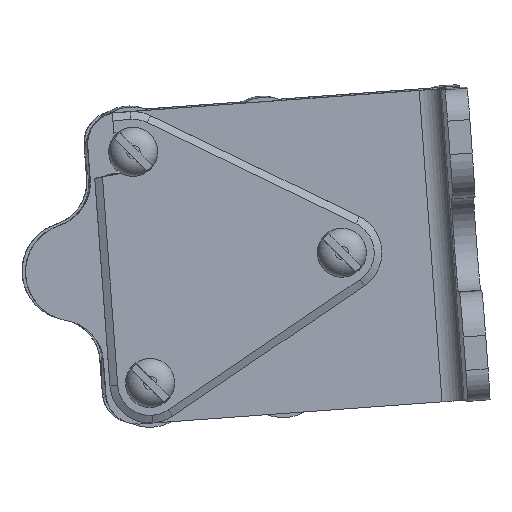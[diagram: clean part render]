
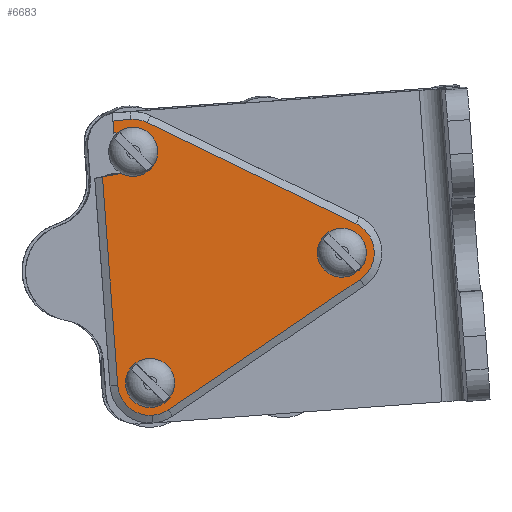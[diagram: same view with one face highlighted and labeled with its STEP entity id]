
A CAD part, left-side view. The second image highlights one B-rep face of the part: STEP entity #6683.
In plain terms, the highlighted planar face has unit normal (-1, -0.013, -0.004) as drawn and (0, 0, 1) by its records, which use the part's own axes.
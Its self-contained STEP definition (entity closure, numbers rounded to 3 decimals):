
#159 = CARTESIAN_POINT ( 'NONE',  ( 10.46, 11.134, 0.8 ) ) ;
#160 = ORIENTED_EDGE ( 'NONE', *, *, #23180, .T. ) ;
#226 = ORIENTED_EDGE ( 'NONE', *, *, #12877, .T. ) ;
#261 = CIRCLE ( 'NONE', #17431, 3.634 ) ;
#617 = CARTESIAN_POINT ( 'NONE',  ( -12.99, 11.134, 0.8 ) ) ;
#695 = LINE ( 'NONE', #20120, #22256 ) ;
#911 = PLANE ( 'NONE',  #2326 ) ;
#984 = CARTESIAN_POINT ( 'NONE',  ( 12.99, 7.5, 0.8 ) ) ;
#1068 = EDGE_CURVE ( 'NONE', #20906, #4068, #8412, .T. ) ;
#1075 = VERTEX_POINT ( 'NONE', #15772 ) ;
#1146 = DIRECTION ( 'NONE',  ( 1., 0., 0. ) ) ;
#1159 = VERTEX_POINT ( 'NONE', #14365 ) ;
#1478 = CARTESIAN_POINT ( 'NONE',  ( -12.99, 7.5, 0.8 ) ) ;
#1632 = DIRECTION ( 'NONE',  ( 0., 0., 1. ) ) ;
#1698 = ORIENTED_EDGE ( 'NONE', *, *, #19546, .F. ) ;
#1946 = CARTESIAN_POINT ( 'NONE',  ( -3.147, -16.817, 0.8 ) ) ;
#2055 = ORIENTED_EDGE ( 'NONE', *, *, #17269, .T. ) ;
#2068 = EDGE_CURVE ( 'NONE', #12152, #5134, #7306, .T. ) ;
#2107 = CARTESIAN_POINT ( 'NONE',  ( 15.24, 7.5, 0.8 ) ) ;
#2141 = ORIENTED_EDGE ( 'NONE', *, *, #15362, .T. ) ;
#2326 = AXIS2_PLACEMENT_3D ( 'NONE', #984, #6446, #15743 ) ;
#2375 = AXIS2_PLACEMENT_3D ( 'NONE', #13897, #17389, #4906 ) ;
#2485 = EDGE_CURVE ( 'NONE', #7765, #1075, #16244, .T. ) ;
#2811 = LINE ( 'NONE', #14398, #21282 ) ;
#3159 = VERTEX_POINT ( 'NONE', #21007 ) ;
#3263 = DIRECTION ( 'NONE',  ( 1., 0., 0. ) ) ;
#3274 = LINE ( 'NONE', #15252, #13363 ) ;
#3404 = CARTESIAN_POINT ( 'NONE',  ( 10.74, 7.5, 0.8 ) ) ;
#3544 = FACE_BOUND ( 'NONE', #21108, .T. ) ;
#3578 = CARTESIAN_POINT ( 'NONE',  ( 15.24, 7.5, 0.8 ) ) ;
#4033 = VERTEX_POINT ( 'NONE', #18733 ) ;
#4068 = VERTEX_POINT ( 'NONE', #8295 ) ;
#4096 = EDGE_CURVE ( 'NONE', #1075, #3159, #261, .T. ) ;
#4143 = CARTESIAN_POINT ( 'NONE',  ( -16.137, 5.683, 0.8 ) ) ;
#4224 = CARTESIAN_POINT ( 'NONE',  ( -12.99, 7.5, 0.8 ) ) ;
#4264 = CARTESIAN_POINT ( 'NONE',  ( -2.25, -15., 0.8 ) ) ;
#4410 = CARTESIAN_POINT ( 'NONE',  ( 0., -15., 0.8 ) ) ;
#4906 = DIRECTION ( 'NONE',  ( 1., 0., 0. ) ) ;
#5134 = VERTEX_POINT ( 'NONE', #16781 ) ;
#5388 = VERTEX_POINT ( 'NONE', #3578 ) ;
#6042 = EDGE_CURVE ( 'NONE', #4033, #19659, #3274, .T. ) ;
#6078 = EDGE_CURVE ( 'NONE', #4068, #20906, #16739, .T. ) ;
#6099 = CARTESIAN_POINT ( 'NONE',  ( 16.137, 5.683, 0.8 ) ) ;
#6446 = DIRECTION ( 'NONE',  ( 0., 0., 1. ) ) ;
#6683 = ADVANCED_FACE ( 'NONE', ( #19523, #3544, #7777 ), #911, .T. ) ;
#6927 = DIRECTION ( 'NONE',  ( 1., 0., 0. ) ) ;
#7077 = CARTESIAN_POINT ( 'NONE',  ( -3.147, -16.817, 0.8 ) ) ;
#7306 = CIRCLE ( 'NONE', #11015, 3.634 ) ;
#7465 = CARTESIAN_POINT ( 'NONE',  ( -12.99, 7.5, 0.8 ) ) ;
#7699 = DIRECTION ( 'NONE',  ( 0., 0., 1. ) ) ;
#7765 = VERTEX_POINT ( 'NONE', #13150 ) ;
#7777 = FACE_BOUND ( 'NONE', #20248, .T. ) ;
#8223 = ORIENTED_EDGE ( 'NONE', *, *, #12355, .F. ) ;
#8295 = CARTESIAN_POINT ( 'NONE',  ( 2.25, -15., 0.8 ) ) ;
#8412 = CIRCLE ( 'NONE', #2375, 2.25 ) ;
#8449 = CARTESIAN_POINT ( 'NONE',  ( 16.624, 9.5, 0.8 ) ) ;
#8490 = VECTOR ( 'NONE', #20811, 1000. ) ;
#8581 = DIRECTION ( 'NONE',  ( 0., 1., 0. ) ) ;
#9497 = CIRCLE ( 'NONE', #23199, 2.25 ) ;
#9524 = EDGE_CURVE ( 'NONE', #22062, #1159, #18951, .T. ) ;
#9715 = DIRECTION ( 'NONE',  ( 1., 0., 0. ) ) ;
#9829 = CARTESIAN_POINT ( 'NONE',  ( 12.99, 7.5, 0.8 ) ) ;
#9881 = CARTESIAN_POINT ( 'NONE',  ( -12.99, 7.5, 0.8 ) ) ;
#9894 = DIRECTION ( 'NONE',  ( 0., 0., 1. ) ) ;
#10054 = EDGE_CURVE ( 'NONE', #1159, #22062, #9497, .T. ) ;
#10577 = ORIENTED_EDGE ( 'NONE', *, *, #6042, .F. ) ;
#11015 = AXIS2_PLACEMENT_3D ( 'NONE', #4224, #15197, #9715 ) ;
#11613 = DIRECTION ( 'NONE',  ( 1., 0., 0. ) ) ;
#11974 = ORIENTED_EDGE ( 'NONE', *, *, #20790, .T. ) ;
#12152 = VERTEX_POINT ( 'NONE', #617 ) ;
#12258 = DIRECTION ( 'NONE',  ( 1., 0., 0. ) ) ;
#12355 = EDGE_CURVE ( 'NONE', #22023, #5388, #17312, .T. ) ;
#12369 = ORIENTED_EDGE ( 'NONE', *, *, #4096, .T. ) ;
#12877 = EDGE_CURVE ( 'NONE', #17215, #7765, #19500, .T. ) ;
#12941 = DIRECTION ( 'NONE',  ( 0., 0., 1. ) ) ;
#13109 = VECTOR ( 'NONE', #16266, 1000. ) ;
#13150 = CARTESIAN_POINT ( 'NONE',  ( 3.147, -16.817, 0.8 ) ) ;
#13363 = VECTOR ( 'NONE', #18871, 1000. ) ;
#13581 = AXIS2_PLACEMENT_3D ( 'NONE', #1478, #1632, #3263 ) ;
#13622 = VERTEX_POINT ( 'NONE', #4143 ) ;
#13897 = CARTESIAN_POINT ( 'NONE',  ( 0., -15., 0.8 ) ) ;
#14031 = DIRECTION ( 'NONE',  ( 0., 0., 1. ) ) ;
#14216 = ORIENTED_EDGE ( 'NONE', *, *, #2068, .T. ) ;
#14310 = CIRCLE ( 'NONE', #14482, 23.731 ) ;
#14365 = CARTESIAN_POINT ( 'NONE',  ( -15.24, 7.5, 0.8 ) ) ;
#14398 = CARTESIAN_POINT ( 'NONE',  ( 16.624, 7.5, 0.8 ) ) ;
#14482 = AXIS2_PLACEMENT_3D ( 'NONE', #9881, #17198, #17275 ) ;
#14678 = CARTESIAN_POINT ( 'NONE',  ( 0., -15., 0.8 ) ) ;
#15099 = VECTOR ( 'NONE', #18637, 1000. ) ;
#15197 = DIRECTION ( 'NONE',  ( 0., 0., 1. ) ) ;
#15252 = CARTESIAN_POINT ( 'NONE',  ( 15.24, 9.5, 0.8 ) ) ;
#15362 = EDGE_CURVE ( 'NONE', #23194, #12152, #695, .T. ) ;
#15743 = DIRECTION ( 'NONE',  ( 1., 0., 0. ) ) ;
#15759 = CARTESIAN_POINT ( 'NONE',  ( -12.99, 7.5, 0.8 ) ) ;
#15772 = CARTESIAN_POINT ( 'NONE',  ( 16.137, 5.683, 0.8 ) ) ;
#16009 = CARTESIAN_POINT ( 'NONE',  ( -10.74, 7.5, 0.8 ) ) ;
#16244 = LINE ( 'NONE', #6099, #15099 ) ;
#16266 = DIRECTION ( 'NONE',  ( 0.5, -0.866, 0. ) ) ;
#16549 = AXIS2_PLACEMENT_3D ( 'NONE', #7465, #7699, #18272 ) ;
#16654 = EDGE_LOOP ( 'NONE', ( #12369, #160, #10577, #20832, #8223, #1698, #2141, #14216, #2055, #11974, #226, #22094 ) ) ;
#16739 = CIRCLE ( 'NONE', #21194, 2.25 ) ;
#16781 = CARTESIAN_POINT ( 'NONE',  ( -16.624, 7.5, 0.8 ) ) ;
#16905 = EDGE_CURVE ( 'NONE', #5388, #4033, #22798, .T. ) ;
#17198 = DIRECTION ( 'NONE',  ( 0., 0., -1. ) ) ;
#17215 = VERTEX_POINT ( 'NONE', #7077 ) ;
#17269 = EDGE_CURVE ( 'NONE', #5134, #13622, #20285, .T. ) ;
#17275 = DIRECTION ( 'NONE',  ( 1., 0., 0. ) ) ;
#17312 = CIRCLE ( 'NONE', #20084, 2.25 ) ;
#17389 = DIRECTION ( 'NONE',  ( 0., 0., 1. ) ) ;
#17431 = AXIS2_PLACEMENT_3D ( 'NONE', #17779, #23097, #12258 ) ;
#17761 = ORIENTED_EDGE ( 'NONE', *, *, #1068, .F. ) ;
#17779 = CARTESIAN_POINT ( 'NONE',  ( 12.99, 7.5, 0.8 ) ) ;
#17907 = LINE ( 'NONE', #1946, #13109 ) ;
#18272 = DIRECTION ( 'NONE',  ( 1., 0., 0. ) ) ;
#18332 = ORIENTED_EDGE ( 'NONE', *, *, #9524, .F. ) ;
#18418 = ORIENTED_EDGE ( 'NONE', *, *, #6078, .F. ) ;
#18637 = DIRECTION ( 'NONE',  ( 0.5, 0.866, 0. ) ) ;
#18733 = CARTESIAN_POINT ( 'NONE',  ( 15.24, 9.5, 0.8 ) ) ;
#18871 = DIRECTION ( 'NONE',  ( 1., 0., 0. ) ) ;
#18951 = CIRCLE ( 'NONE', #13581, 2.25 ) ;
#19021 = ORIENTED_EDGE ( 'NONE', *, *, #10054, .F. ) ;
#19500 = CIRCLE ( 'NONE', #19949, 3.634 ) ;
#19523 = FACE_OUTER_BOUND ( 'NONE', #16654, .T. ) ;
#19546 = EDGE_CURVE ( 'NONE', #23194, #22023, #14310, .T. ) ;
#19659 = VERTEX_POINT ( 'NONE', #8449 ) ;
#19949 = AXIS2_PLACEMENT_3D ( 'NONE', #4410, #9894, #1146 ) ;
#20084 = AXIS2_PLACEMENT_3D ( 'NONE', #9829, #22369, #11613 ) ;
#20120 = CARTESIAN_POINT ( 'NONE',  ( -12.99, 11.134, 0.8 ) ) ;
#20193 = DIRECTION ( 'NONE',  ( -1., 0., 0. ) ) ;
#20248 = EDGE_LOOP ( 'NONE', ( #17761, #18418 ) ) ;
#20285 = CIRCLE ( 'NONE', #16549, 3.634 ) ;
#20790 = EDGE_CURVE ( 'NONE', #13622, #17215, #17907, .T. ) ;
#20811 = DIRECTION ( 'NONE',  ( 0., 1., 0. ) ) ;
#20832 = ORIENTED_EDGE ( 'NONE', *, *, #16905, .F. ) ;
#20906 = VERTEX_POINT ( 'NONE', #4264 ) ;
#21007 = CARTESIAN_POINT ( 'NONE',  ( 16.624, 7.5, 0.8 ) ) ;
#21108 = EDGE_LOOP ( 'NONE', ( #19021, #18332 ) ) ;
#21194 = AXIS2_PLACEMENT_3D ( 'NONE', #14678, #12941, #22055 ) ;
#21282 = VECTOR ( 'NONE', #8581, 1000. ) ;
#22023 = VERTEX_POINT ( 'NONE', #3404 ) ;
#22055 = DIRECTION ( 'NONE',  ( 1., 0., 0. ) ) ;
#22062 = VERTEX_POINT ( 'NONE', #16009 ) ;
#22094 = ORIENTED_EDGE ( 'NONE', *, *, #2485, .T. ) ;
#22256 = VECTOR ( 'NONE', #20193, 1000. ) ;
#22369 = DIRECTION ( 'NONE',  ( 0., 0., 1. ) ) ;
#22798 = LINE ( 'NONE', #2107, #8490 ) ;
#23097 = DIRECTION ( 'NONE',  ( 0., 0., 1. ) ) ;
#23180 = EDGE_CURVE ( 'NONE', #3159, #19659, #2811, .T. ) ;
#23194 = VERTEX_POINT ( 'NONE', #159 ) ;
#23199 = AXIS2_PLACEMENT_3D ( 'NONE', #15759, #14031, #6927 ) ;
